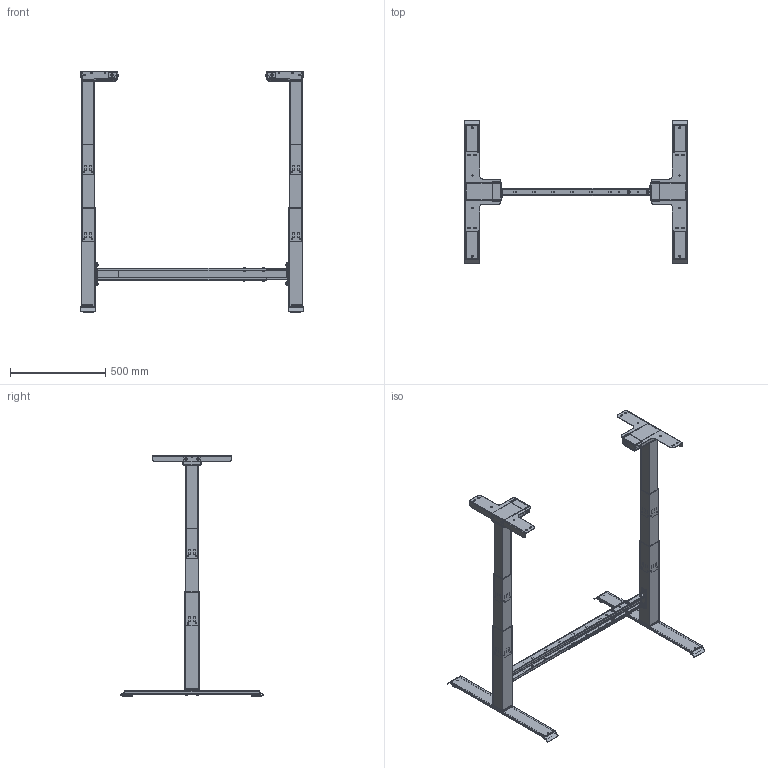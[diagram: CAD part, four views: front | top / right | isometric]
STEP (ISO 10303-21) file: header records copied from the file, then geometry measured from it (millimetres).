
FILE_DESCRIPTION(/* description */ ('Unknown'),/* implementation_level */ '2;1');
FILE_NAME(/* name */ 'Untergestell EA 2665 XX XX_00-Ausgefahren',/* time_stamp */ '2025-11-05T10:41:42+01:00',/* author */ ('Unknown'),/* organization */ ('Unknown'),/* preprocessor_version */ 'ST-DEVELOPER v20',/* originating_system */ 'Solid Edge',/* authorisation */ 'Unknown');
FILE_SCHEMA (('AUTOMOTIVE_DESIGN {1 0 10303 214 3 1 1}'));
Products named in the file (22): Untergestell EA 2655 XX XX; 127.00821; EA2 Tischfuss unten; EA2 Tischfuss oben; Regulierfuss; 801.00036; EA Aussenprofil; EA Mittelprofil; EA Innenprofil; EA Motorengehäuse; EA Deckel; EA Molex; 127.00842; E1 Traverse aussen; E1 Traverse innen; Halbrundkopfschraube M6x16; Scheibe ﾘ6,4; Sechskantmutter M6; Halbrundkopfschraube M8x10; 127.00801; Senkschraube M6x12; Halbrundkopfschraube M6x32
Assembly tree (51 placements, depth 3):
  Untergestell EA 2655 XX XX
    127.00821  x2
      EA2 Tischfuss unten
      EA2 Tischfuss oben
      Regulierfuss
    801.00036  x2
      EA Aussenprofil
      EA Mittelprofil
      EA Innenprofil
      EA Motorengehäuse
      EA Deckel
      EA Molex
    127.00842
      E1 Traverse aussen
      E1 Traverse innen
      Halbrundkopfschraube M6x16  x4
      Scheibe ﾘ6,4  x4
      Sechskantmutter M6  x4
      Halbrundkopfschraube M8x10  x4
    127.00801  x2
    Senkschraube M6x12  x8
    Halbrundkopfschraube M6x32  x8
Bounding box: 1171 x 749.98 x 1270 mm (x, y, z)
Volume: 3747273.6 mm3; surface area: 3369927.7 mm2
Topology: 60 solids, 60 shells, 3377 faces, 9093 edges, 5920 vertices
Faces by surface type: plane 1606, cylinder 1091, cone 308, torus 240, bspline 112, sphere 20
Full cylindrical faces by diameter (mm): 4.2 x4, 4.5 x8, 4.917 x28, 5.6 x16, 5.7 x16, 5.75 x4, 6 x26, 6.4 x4, 6.647 x4, 6.8 x4, 7.2 x12, 8 x4, 12 x12, 13.6 x4, 14 x4
Entity records: 55950 total; most frequent: CARTESIAN_POINT 13304, ORIENTED_EDGE 8300, DIRECTION 7531, EDGE_CURVE 4150, VERTEX_POINT 2759, AXIS2_PLACEMENT_3D 2605, LINE 2321, VECTOR 2321
